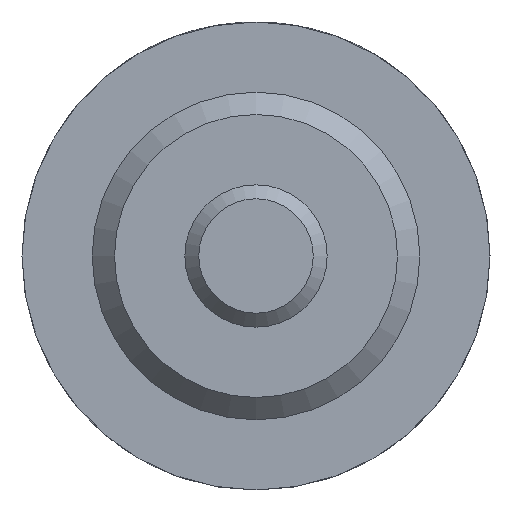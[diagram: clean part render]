
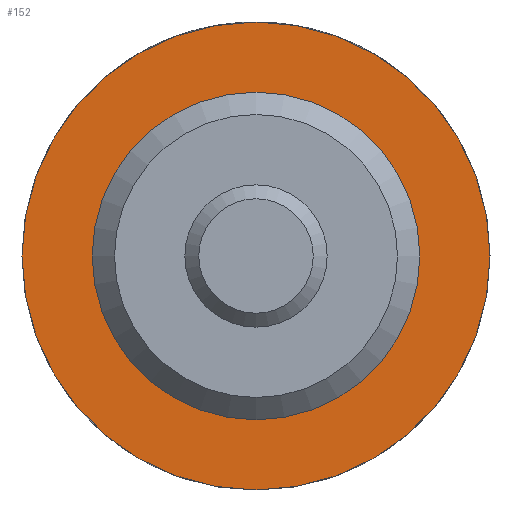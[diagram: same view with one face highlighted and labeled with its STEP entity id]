
A CAD part, left-side view. The second image highlights one B-rep face of the part: STEP entity #152.
In plain terms, the highlighted planar face has unit normal (-1, 0, 0).
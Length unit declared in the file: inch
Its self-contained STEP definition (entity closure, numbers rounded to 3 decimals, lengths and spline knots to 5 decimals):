
#152 = ADVANCED_FACE( '', ( #313, #314 ), #315, .F. );
#313 = FACE_OUTER_BOUND( '', #489, .T. );
#314 = FACE_BOUND( '', #490, .T. );
#315 = PLANE( '', #491 );
#489 = EDGE_LOOP( '', ( #709 ) );
#490 = EDGE_LOOP( '', ( #710 ) );
#491 = AXIS2_PLACEMENT_3D( '', #711, #712, #713 );
#709 = ORIENTED_EDGE( '', *, *, #906, .F. );
#710 = ORIENTED_EDGE( '', *, *, #891, .T. );
#711 = CARTESIAN_POINT( '', ( 0.375, 0.2185, 0. ) );
#712 = DIRECTION( '', ( 1., 0., 0. ) );
#713 = DIRECTION( '', ( 0., 0., -1. ) );
#891 = EDGE_CURVE( '', #1016, #1016, #1017, .T. );
#906 = EDGE_CURVE( '', #1039, #1039, #1040, .T. );
#1016 = VERTEX_POINT( '', #1301 );
#1017 = CIRCLE( '', #1302, 0.2185 );
#1039 = VERTEX_POINT( '', #1327 );
#1040 = CIRCLE( '', #1328, 0.3125 );
#1301 = CARTESIAN_POINT( '', ( 0.375, 0., -0.2185 ) );
#1302 = AXIS2_PLACEMENT_3D( '', #1447, #1448, #1449 );
#1327 = CARTESIAN_POINT( '', ( 0.375, 0., -0.3125 ) );
#1328 = AXIS2_PLACEMENT_3D( '', #1471, #1472, #1473 );
#1447 = CARTESIAN_POINT( '', ( 0.375, 0., 0. ) );
#1448 = DIRECTION( '', ( 1., 0., 0. ) );
#1449 = DIRECTION( '', ( 0., 0., -1. ) );
#1471 = CARTESIAN_POINT( '', ( 0.375, 0., 0. ) );
#1472 = DIRECTION( '', ( 1., 0., 0. ) );
#1473 = DIRECTION( '', ( 0., 0., -1. ) );
